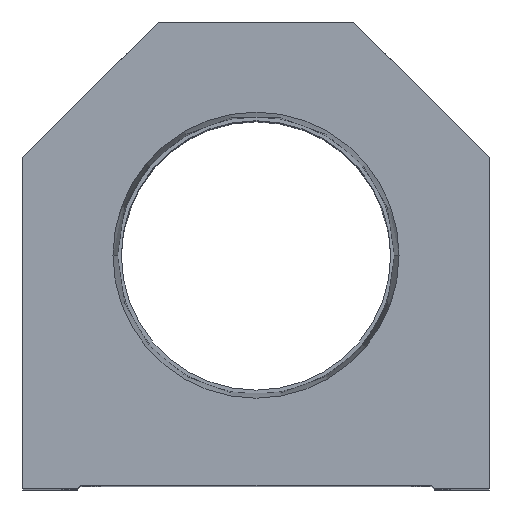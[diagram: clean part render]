
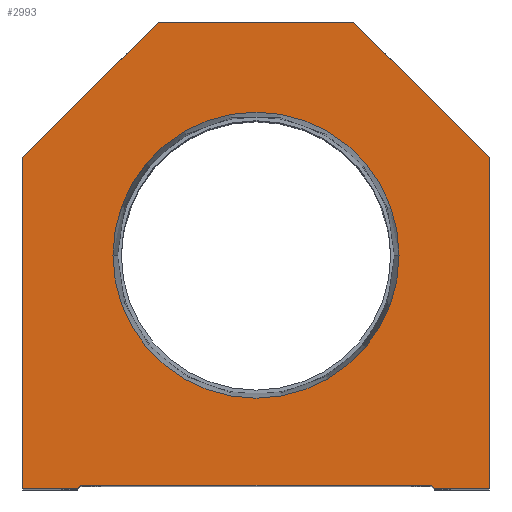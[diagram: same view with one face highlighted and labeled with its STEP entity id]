
A CAD part, top view. The second image highlights one B-rep face of the part: STEP entity #2993.
In plain terms, the highlighted planar face has unit normal (0, 0, 1).
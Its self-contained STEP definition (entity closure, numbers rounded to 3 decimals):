
#1021 = EDGE_CURVE ( 'NONE', #16632, #12568, #16647, .T. ) ;
#1643 = DIRECTION ( 'NONE',  ( 1., 0., 0. ) ) ;
#1661 = FACE_OUTER_BOUND ( 'NONE', #17311, .T. ) ;
#1712 = VERTEX_POINT ( 'NONE', #5448 ) ;
#1760 = EDGE_CURVE ( 'NONE', #13610, #4887, #11657, .T. ) ;
#1791 = VECTOR ( 'NONE', #13859, 1000. ) ;
#1794 = ORIENTED_EDGE ( 'NONE', *, *, #17180, .T. ) ;
#1999 = CARTESIAN_POINT ( 'NONE',  ( 38.1, 0., 0. ) ) ;
#2468 = LINE ( 'NONE', #8118, #15248 ) ;
#2667 = CIRCLE ( 'NONE', #15668, 23.374 ) ;
#2800 = VECTOR ( 'NONE', #9870, 1000. ) ;
#2993 = ADVANCED_FACE ( 'NONE', ( #6172, #1661 ), #14585, .T. ) ;
#3081 = CIRCLE ( 'NONE', #10729, 23.374 ) ;
#3083 = CARTESIAN_POINT ( 'NONE',  ( 23.374, 38.1, 0. ) ) ;
#3131 = DIRECTION ( 'NONE',  ( 0., 0., 1. ) ) ;
#3367 = VECTOR ( 'NONE', #16033, 1000. ) ;
#3405 = DIRECTION ( 'NONE',  ( 0., 0., 1. ) ) ;
#4139 = CARTESIAN_POINT ( 'NONE',  ( 38.1, 54.1, 0. ) ) ;
#4149 = CARTESIAN_POINT ( 'NONE',  ( -28.6, 0.5, 0. ) ) ;
#4626 = CARTESIAN_POINT ( 'NONE',  ( 28.6, 0., 0. ) ) ;
#4887 = VERTEX_POINT ( 'NONE', #1999 ) ;
#5374 = VERTEX_POINT ( 'NONE', #4149 ) ;
#5395 = VECTOR ( 'NONE', #11460, 1000. ) ;
#5448 = CARTESIAN_POINT ( 'NONE',  ( -38.1, 54.1, 0. ) ) ;
#5539 = DIRECTION ( 'NONE',  ( 1., 0., 0. ) ) ;
#5809 = LINE ( 'NONE', #16916, #5395 ) ;
#5951 = ORIENTED_EDGE ( 'NONE', *, *, #1021, .T. ) ;
#6073 = CARTESIAN_POINT ( 'NONE',  ( -28.6, 0., 0. ) ) ;
#6172 = FACE_BOUND ( 'NONE', #8703, .T. ) ;
#6188 = CARTESIAN_POINT ( 'NONE',  ( 14.55, 14.55, 0. ) ) ;
#6353 = ORIENTED_EDGE ( 'NONE', *, *, #16604, .T. ) ;
#6442 = EDGE_CURVE ( 'NONE', #6483, #5374, #6841, .T. ) ;
#6483 = VERTEX_POINT ( 'NONE', #14482 ) ;
#6574 = EDGE_CURVE ( 'NONE', #15744, #15182, #2667, .T. ) ;
#6841 = LINE ( 'NONE', #14398, #1791 ) ;
#6921 = ORIENTED_EDGE ( 'NONE', *, *, #1760, .T. ) ;
#7009 = ORIENTED_EDGE ( 'NONE', *, *, #18307, .T. ) ;
#7180 = CARTESIAN_POINT ( 'NONE',  ( 0., 38.1, 0. ) ) ;
#7480 = DIRECTION ( 'NONE',  ( 0.707, -0.707, 0. ) ) ;
#7837 = VECTOR ( 'NONE', #7480, 1000. ) ;
#8118 = CARTESIAN_POINT ( 'NONE',  ( -38.1, 0., 0. ) ) ;
#8572 = CARTESIAN_POINT ( 'NONE',  ( -23.374, 38.1, 0. ) ) ;
#8635 = DIRECTION ( 'NONE',  ( -0.707, -0.707, 0. ) ) ;
#8703 = EDGE_LOOP ( 'NONE', ( #9280, #10149 ) ) ;
#8858 = LINE ( 'NONE', #6073, #9333 ) ;
#9252 = EDGE_CURVE ( 'NONE', #15182, #15744, #3081, .T. ) ;
#9280 = ORIENTED_EDGE ( 'NONE', *, *, #9252, .F. ) ;
#9333 = VECTOR ( 'NONE', #14484, 1000. ) ;
#9369 = ORIENTED_EDGE ( 'NONE', *, *, #12948, .T. ) ;
#9569 = DIRECTION ( 'NONE',  ( 0., -1., 0. ) ) ;
#9870 = DIRECTION ( 'NONE',  ( 1., 0., 0. ) ) ;
#10035 = ORIENTED_EDGE ( 'NONE', *, *, #11860, .T. ) ;
#10084 = VERTEX_POINT ( 'NONE', #4139 ) ;
#10149 = ORIENTED_EDGE ( 'NONE', *, *, #6574, .F. ) ;
#10253 = CARTESIAN_POINT ( 'NONE',  ( 0., 0., 0. ) ) ;
#10258 = ORIENTED_EDGE ( 'NONE', *, *, #11074, .T. ) ;
#10510 = DIRECTION ( 'NONE',  ( 1., 0., 0. ) ) ;
#10729 = AXIS2_PLACEMENT_3D ( 'NONE', #7180, #3131, #1643 ) ;
#10844 = CARTESIAN_POINT ( 'NONE',  ( -16., 76.2, 0. ) ) ;
#11074 = EDGE_CURVE ( 'NONE', #4887, #10084, #5809, .T. ) ;
#11460 = DIRECTION ( 'NONE',  ( 0., 1., 0. ) ) ;
#11512 = CARTESIAN_POINT ( 'NONE',  ( 16., 76.2, 0. ) ) ;
#11657 = LINE ( 'NONE', #4626, #2800 ) ;
#11860 = EDGE_CURVE ( 'NONE', #10084, #16632, #14726, .T. ) ;
#11948 = CARTESIAN_POINT ( 'NONE',  ( 38.1, 54.1, 0. ) ) ;
#11991 = CARTESIAN_POINT ( 'NONE',  ( -38.1, 0., 0. ) ) ;
#12020 = CARTESIAN_POINT ( 'NONE',  ( 16., 76.2, 0. ) ) ;
#12568 = VERTEX_POINT ( 'NONE', #10844 ) ;
#12851 = VECTOR ( 'NONE', #5539, 1000. ) ;
#12948 = EDGE_CURVE ( 'NONE', #14485, #13610, #13311, .T. ) ;
#13240 = VECTOR ( 'NONE', #16291, 1000. ) ;
#13243 = CARTESIAN_POINT ( 'NONE',  ( 28.6, 0.5, 0. ) ) ;
#13311 = LINE ( 'NONE', #6188, #7837 ) ;
#13418 = VECTOR ( 'NONE', #8635, 1000. ) ;
#13610 = VERTEX_POINT ( 'NONE', #18080 ) ;
#13766 = CARTESIAN_POINT ( 'NONE',  ( -28.6, 0.5, 0. ) ) ;
#13809 = CARTESIAN_POINT ( 'NONE',  ( 0., 38.1, 0. ) ) ;
#13859 = DIRECTION ( 'NONE',  ( 0.707, 0.707, 0. ) ) ;
#14398 = CARTESIAN_POINT ( 'NONE',  ( -14.55, 14.55, 0. ) ) ;
#14482 = CARTESIAN_POINT ( 'NONE',  ( -29.1, 0., 0. ) ) ;
#14484 = DIRECTION ( 'NONE',  ( 1., 0., 0. ) ) ;
#14485 = VERTEX_POINT ( 'NONE', #13243 ) ;
#14541 = CARTESIAN_POINT ( 'NONE',  ( -38.1, 54.1, 0. ) ) ;
#14585 = PLANE ( 'NONE',  #16581 ) ;
#14726 = LINE ( 'NONE', #11948, #3367 ) ;
#15069 = LINE ( 'NONE', #13766, #12851 ) ;
#15182 = VERTEX_POINT ( 'NONE', #3083 ) ;
#15248 = VECTOR ( 'NONE', #9569, 1000. ) ;
#15668 = AXIS2_PLACEMENT_3D ( 'NONE', #13809, #16440, #18095 ) ;
#15744 = VERTEX_POINT ( 'NONE', #8572 ) ;
#15852 = VERTEX_POINT ( 'NONE', #11991 ) ;
#16033 = DIRECTION ( 'NONE',  ( -0.707, 0.707, 0. ) ) ;
#16291 = DIRECTION ( 'NONE',  ( -1., 0., 0. ) ) ;
#16335 = ORIENTED_EDGE ( 'NONE', *, *, #17621, .T. ) ;
#16440 = DIRECTION ( 'NONE',  ( 0., 0., 1. ) ) ;
#16581 = AXIS2_PLACEMENT_3D ( 'NONE', #10253, #3405, #10510 ) ;
#16604 = EDGE_CURVE ( 'NONE', #12568, #1712, #17268, .T. ) ;
#16632 = VERTEX_POINT ( 'NONE', #11512 ) ;
#16647 = LINE ( 'NONE', #12020, #13240 ) ;
#16916 = CARTESIAN_POINT ( 'NONE',  ( 38.1, 0., 0. ) ) ;
#17180 = EDGE_CURVE ( 'NONE', #5374, #14485, #15069, .T. ) ;
#17268 = LINE ( 'NONE', #14541, #13418 ) ;
#17311 = EDGE_LOOP ( 'NONE', ( #16335, #17795, #1794, #9369, #6921, #10258, #10035, #5951, #6353, #7009 ) ) ;
#17621 = EDGE_CURVE ( 'NONE', #15852, #6483, #8858, .T. ) ;
#17795 = ORIENTED_EDGE ( 'NONE', *, *, #6442, .T. ) ;
#18080 = CARTESIAN_POINT ( 'NONE',  ( 29.1, 0., 0. ) ) ;
#18095 = DIRECTION ( 'NONE',  ( 1., 0., 0. ) ) ;
#18307 = EDGE_CURVE ( 'NONE', #1712, #15852, #2468, .T. ) ;
